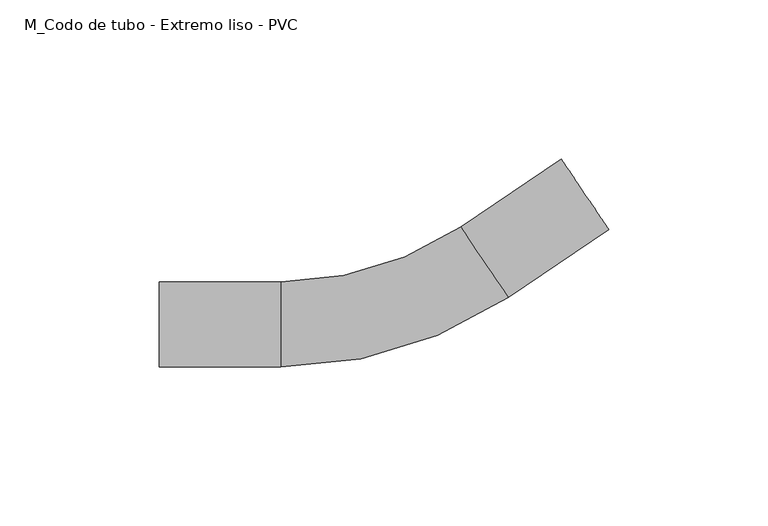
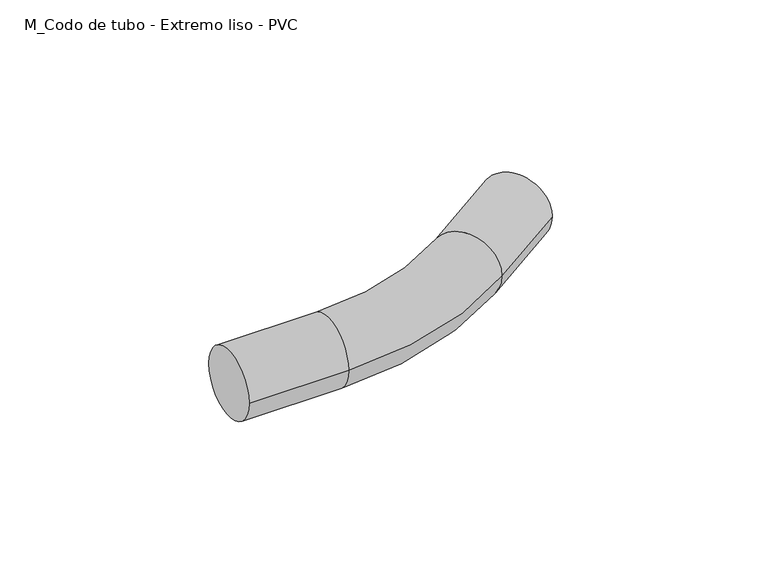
"""IFC4 building model written with IfcOpenShell, lengths in millimetres: cable carrier fitting geometry, M_Codo de tubo - Extremo liso - PVC : CODO ILUMINACION."""

from ifc_helpers import new_model, si_unit, point, frame, origin, place, context, project, spatial, circle_curve, ellipse_curve, trimmed, source, transform, mapped, element, save
from ifc_brep_helpers import plane_surface, cylinder_surface, revolved_surface, advanced_brep


def m_codo_de_tubo_extremo_liso_pvc_96af7e0b(model_context):
    return source(origin(), model_context, "Body", "AdvancedBrep", [
        advanced_brep(
        [(-73.0478348, -13.335, 0.0), (-73.0478348, 13.335, 0.0), (-34.9478348, -13.335, 0.0), (-34.9478348, 13.335, 0.0), (21.514851, 30.5987674, 0.0), (36.4295227, 8.4890079, 0.0), (68.0148935, 29.7956818, 0.0), (53.1002218, 51.9054413, 0.0)],
        [
            (0, 1, circle_curve(frame((-73.0478348, 0.0, 0.0), z_axis=(-1.0, 0.0, 0.0), x_axis=(0.0, 1.0, 0.0)), 13.335)),
            (1, 0, circle_curve(frame((-73.0478348, 0.0, 0.0), z_axis=(-1.0, 0.0, 0.0), x_axis=(0.0, 1.0, 0.0)), 13.335)),
            (0, 2),
            (2, 3, circle_curve(frame((-34.9478348, 0.0, 0.0), z_axis=(-1.0, 0.0, 0.0), x_axis=(0.0, 1.0, 0.0)), 13.335)),
            (3, 1),
            (3, 2, circle_curve(frame((-34.9478348, 0.0, 0.0), z_axis=(-1.0, 0.0, 0.0), x_axis=(0.0, 1.0, 0.0)), 13.335)),
            (4, 3, circle_curve(frame((-34.9478348, 114.3, 0.0), z_axis=(0.0, 0.0, -1.0), x_axis=(0.0, -1.0, 0.0)), 100.965)),
            (2, 5, circle_curve(frame((-34.9478348, 114.3, 0.0), z_axis=(0.0, 0.0, 1.0), x_axis=(0.0, -1.0, 0.0)), 127.635)),
            (5, 4, circle_curve(frame((28.9721869, 19.5438877, 0.0), z_axis=(-0.8290123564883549, -0.5592302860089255, 0.0), x_axis=(-0.5592302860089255, 0.8290123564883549, 0.0)), 13.335)),
            (4, 5, circle_curve(frame((28.9721869, 19.5438877, 0.0), z_axis=(-0.829012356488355, -0.5592302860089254, 0.0), x_axis=(-0.5592302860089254, 0.829012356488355, 0.0)), 13.335)),
            (6, 7, circle_curve(frame((60.5575577, 40.8505616, 0.0), z_axis=(0.8290123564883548, 0.5592302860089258, 0.0), x_axis=(-0.5592302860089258, 0.8290123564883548, 0.0)), 13.335)),
            (7, 6, circle_curve(frame((60.5575577, 40.8505616, 0.0), z_axis=(0.8290123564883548, 0.5592302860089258, 0.0), x_axis=(-0.5592302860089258, 0.8290123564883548, 0.0)), 13.335)),
            (5, 6),
            (7, 4),
        ],
        [
            plane_surface(frame((-73.0478348, 0.0, 0.0), z_axis=(-1.0, 0.0, 0.0), x_axis=(0.0, 0.0, 1.0))),
            cylinder_surface(frame((-73.0478348, 0.0, 0.0), z_axis=(-1.0, 0.0, 0.0), x_axis=(0.0, 1.0, 0.0)), 13.335),
            revolved_surface(trimmed(ellipse_curve(frame((-34.9478348, 0.0, 0.0), z_axis=(-1.0, 0.0, 0.0), x_axis=(0.0, 1.0, 0.0)), 13.335, 13.335), [point((-34.9478348, -13.335, 0.0))], [point((-34.9478348, 13.335, 0.0))], True, "CARTESIAN"), (-34.9478348, 114.3, 0.0), (0.0, 0.0, 1.0)),
            revolved_surface(trimmed(ellipse_curve(frame((-34.9478348, 0.0, 0.0), z_axis=(-1.0, 0.0, 0.0), x_axis=(0.0, 1.0, 0.0)), 13.335, 13.335), [point((-34.9478348, 13.335, 0.0))], [point((-34.9478348, -13.335, 0.0))], True, "CARTESIAN"), (-34.9478348, 114.3, 0.0), (0.0, 0.0, 1.0)),
            plane_surface(frame((60.5575577, 40.8505616, 0.0), z_axis=(0.8290123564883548, 0.5592302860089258, 0.0), x_axis=(0.0, 0.0, 1.0))),
            cylinder_surface(frame((28.9721869, 19.5438877, 0.0), z_axis=(-0.8290123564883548, -0.5592302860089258, 0.0), x_axis=(-0.5592302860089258, 0.8290123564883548, 0.0)), 13.335),
        ],
        [
            (0, [[1, 2]]),
            (1, [[-1, 3, 4, 5]]),
            (1, [[-2, -5, 6, -3]]),
            (2, [[7, -4, 8, 9]]),
            (3, [[-8, -6, -7, 10]]),
            (4, [[11, 12]]),
            (5, [[-9, 13, -12, 14]]),
            (5, [[-10, -14, -11, -13]]),
        ],
    ),
    ])


if __name__ == "__main__":
    model = new_model("IFC4")
    model_context = context("Model", 3, world=origin())
    ifc_project = project(units=[si_unit("LENGTHUNIT", "METRE", prefix="MILLI")], contexts=[model_context])
    site = spatial("IfcSite", under=ifc_project)
    building = spatial("IfcBuilding", under=site)
    placement = place(None, origin())
    m_codo_de_tubo_extremo_liso_pvc_shape = m_codo_de_tubo_extremo_liso_pvc_96af7e0b(model_context)
    element("IfcCableCarrierFitting", 1, ObjectType="M_Codo de tubo - Extremo liso - PVC : CODO ILUMINACION", at=placement, inside=building, context=model_context, shape_type="MappedRepresentation", body=[
        mapped(m_codo_de_tubo_extremo_liso_pvc_shape, transform((0.0, 0.0, 0.0), x_axis=(1.0, 0.0, 0.0), y_axis=(0.0, 1.0, 0.0), z_axis=(0.0, 0.0, 1.0))),
    ])
    save(model, "model.ifc")
